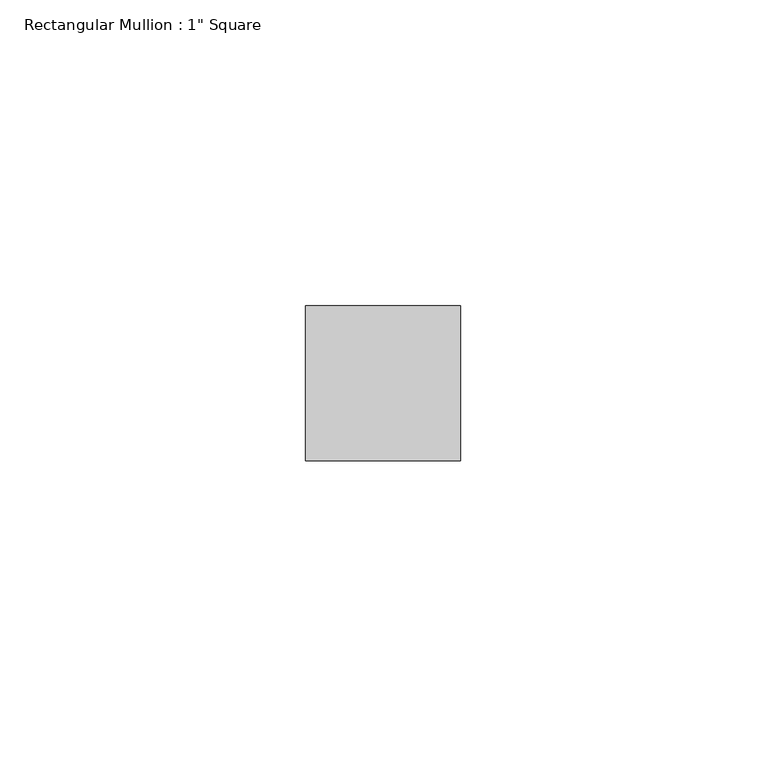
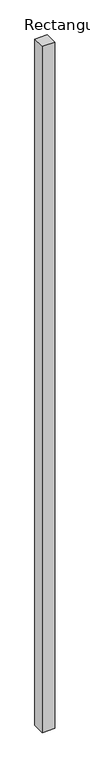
"""IFC4 building model written with IfcOpenShell, lengths in millimetres: member geometry."""

from ifc_helpers import new_model, si_unit, frame, origin, place, context, project, spatial, polyline, outline, extrude, source, transform, mapped, element, save


def member_cca2ed68(model_context):
    return source(origin(), model_context, "Body", "SweptSolid", [
        extrude(outline(polyline([(12.7, 12.7), (12.7, -12.7), (-12.7, -12.7), (-12.7, 12.7), (12.7, 12.7)])), frame((0.0, 0.0, -1469.734148), z_axis=(0.0, 0.0, 1.0), x_axis=(1.0, 0.0, 0.0)), (0.0, 0.0, 1.0), 1469.734148),
    ])


if __name__ == "__main__":
    model = new_model("IFC4")
    model_context = context("Model", 3, world=origin())
    ifc_project = project(units=[si_unit("LENGTHUNIT", "METRE", prefix="MILLI")], contexts=[model_context])
    site = spatial("IfcSite", under=ifc_project)
    building = spatial("IfcBuilding", under=site)
    placement = place(None, origin())
    member_shape = member_cca2ed68(model_context)
    element("IfcMember", 1, ObjectType="Rectangular Mullion : 1\" Square", at=placement, inside=building, context=model_context, shape_type="MappedRepresentation", body=[
        mapped(member_shape, transform((0.0, 0.0, 0.0), x_axis=(1.0, 0.0, 0.0), y_axis=(0.0, 1.0, 0.0), z_axis=(0.0, 0.0, 1.0))),
    ])
    save(model, "model.ifc")
